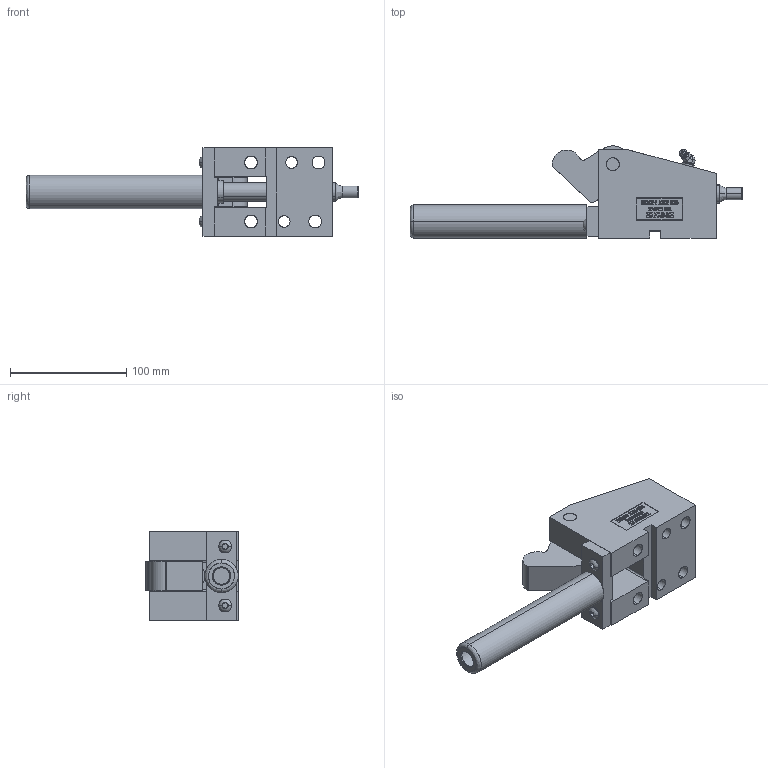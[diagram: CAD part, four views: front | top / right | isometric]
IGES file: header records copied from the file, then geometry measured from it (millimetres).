
Start section: SolidWorks IGES file using analytic representation for surfaces
Global section: file name: Y:\3\MOL62545\OPEN\MOL62545-O.IGS; native system: SolidWorks 2006 by SolidWorks Corporation; preprocessor: SolidWorks 2006 by SolidWorks Corporation; author: Jim; date: 090126.104744; units: inch
Bounding box: 285.62 x 79.37 x 76.2 mm (x, y, z)
Surface area: 116413.3 mm2 (no closed solid volume)
Topology: 0 solids, 0 shells, 607 faces, 7755 edges, 7753 vertices
Faces by surface type: bspline 479, revolution 128
